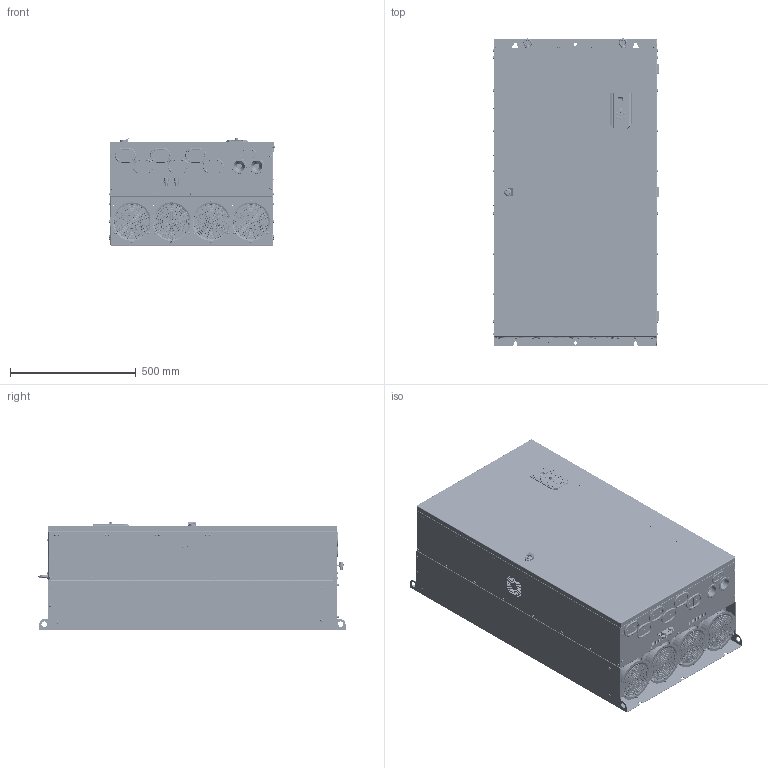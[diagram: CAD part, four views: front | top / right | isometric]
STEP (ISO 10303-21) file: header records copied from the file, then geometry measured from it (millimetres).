
FILE_DESCRIPTION((''),'2;1');
FILE_NAME('AD800-D9-DRIVE_ASM','2025-06-25T14:39:43',('wendong.luo'),(''),'CREO PARAMETRIC BY PTC INC, 2024374','CREO PARAMETRIC BY PTC INC, 2024374','');
FILE_SCHEMA(('CONFIG_CONTROL_DESIGN','GEOMETRIC_VALIDATION_PROPERTIES_MIM'));
Products named in the file (76): D9-MECHANICAL-PART; PRT0001_7; 17251-5YE-2B_1; 17251_ASM_ASM; M0200005; M0202040; M0202034; M0202055; M0202054; M12-25; M0202068; M0202067; M0202037_ASM; M10-25; M10-SPRING_FLAT; M10-WASHER; M0202036_ASM; M0202007; M0100015; M0202003; M0202014; P_FHS_5_12_; RIVETING-NUT-4_; M0204033; M0202002; M3-SPRING_FLAT; M3-WASHER; M0202002_ASM; P_FHS_8_15; P_FHS_5_10; FASTEN_D9_ASM; M0104030; M0204023; M0204014; D9-PU_ASM; M0104033; E0100084; E0400023; E0400008; E0400009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
Assembly tree (300 placements, depth 5):
  AD800-D9-DRIVE_ASM
    D9-PU_ASM
      D9-MECHANICAL-PART
      17251_ASM_ASM  x4
        PRT0001_7
        17251-5YE-2B_1
      M0200005  x4
      FASTEN_D9_ASM
        M0202040  x16
        M0202034  x39
        M0202055  x2
        M0202054  x2
        M0202037_ASM  x14
          M12-25
          M0202068
          M0202067
        M0202036_ASM  x2
          M10-25
          M10-SPRING_FLAT
          M10-WASHER
        M0202007  x60
        M0100015  x2
        M0202003  x8
        M0202014
        P_FHS_5_12_  x12
        RIVETING-NUT-4_  x14
        M0204033
        M0202002_ASM  x2
          M0202002
          M3-SPRING_FLAT
          M3-WASHER
        P_FHS_8_15  x4
        P_FHS_5_10  x26
      M0104030
      M0204023  x6
      M0204014  x3
    CU_NEW_ASM
      M0104033
      E0100084_ASM
        E0100084
        E0400023
        E0400008
        E0400009  x2
        E0400001
        E0400011
      M0203006
      M0203025
      M0203032_00
    D9-DOOR-ASM_ASM
      M0100106_ASM
        M0100106
        M0100059-D9
        LOCATING-PIN-4_  x2
        EM-S-M5-ZC  x6
      M0104027
      EXTERNAL_KEYPAD_ASM
        M0104016
        M0104018
        E0100102_ASM
          E0100102
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Bounding box: 662.2 x 1222.9 x 434 mm (x, y, z)
Volume: 10465798.5 mm3; surface area: 10725877.4 mm2
Topology: 548 solids, 709 shells, 43585 faces, 113772 edges, 72749 vertices
Faces by surface type: plane 19642, cylinder 11440, bspline 6152, extrusion 2304, cone 1954, torus 1764, sphere 329
Entity records: 805052 total; most frequent: CARTESIAN_POINT 215155, ORIENTED_EDGE 100134, DIRECTION 85960, EDGE_CURVE 50274, PRESENTATION_STYLE_ASSIGNMENT 34123, VERTEX_POINT 32884, VECTOR 32842, STYLED_ITEM 32521
